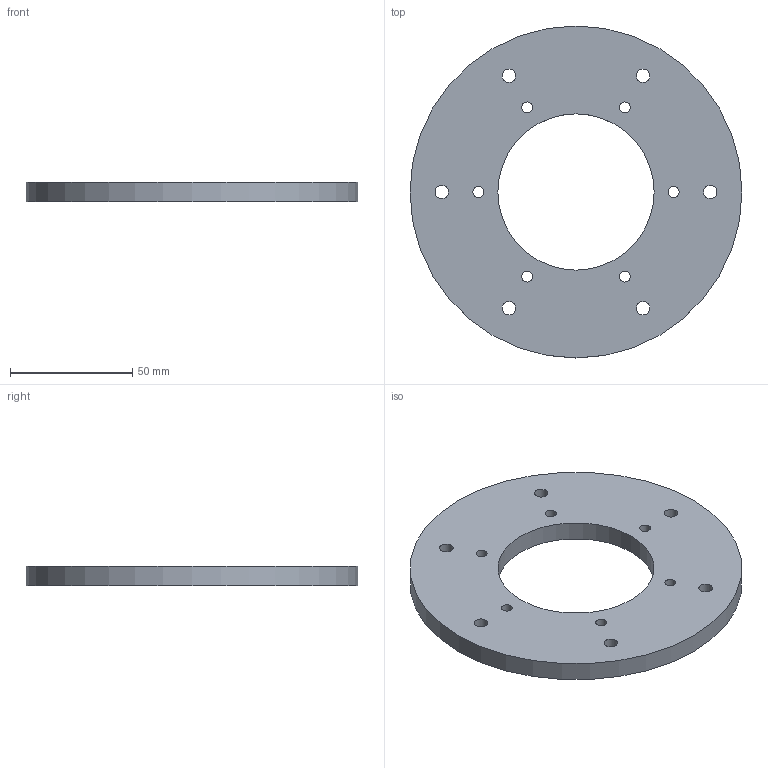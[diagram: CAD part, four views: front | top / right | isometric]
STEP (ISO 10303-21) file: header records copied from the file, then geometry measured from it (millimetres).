
FILE_DESCRIPTION(('Open CASCADE Model'),'2;1');
FILE_NAME('Open CASCADE Shape Model','2026-10-21T13:45:29',('Author'),( 'Open CASCADE'),'Open CASCADE STEP processor 7.9','Open CASCADE 7.9' ,'Unknown');
FILE_SCHEMA(('AUTOMOTIVE_DESIGN { 1 0 10303 214 1 1 1 1 }'));
Length unit declared in the file: millimetre
Products named in the file (1): Open CASCADE STEP translator 7.9 3
Bounding box: 136 x 136 x 8 mm (x, y, z)
Volume: 88574.1 mm3; surface area: 28678 mm2
Topology: 1 solids, 1 shells, 16 faces, 42 edges, 28 vertices
Faces by surface type: cylinder 14, plane 2
Full cylindrical faces by diameter (mm): 4.5 x6, 5.5 x6, 64 x1, 136 x1
Entity records: 1194 total; most frequent: CARTESIAN_POINT 315, DIRECTION 164, ORIENTED_EDGE 84, PCURVE 84, DEFINITIONAL_REPRESENTATION 84, LINE 70, VECTOR 70, AXIS2_PLACEMENT_3D 45
